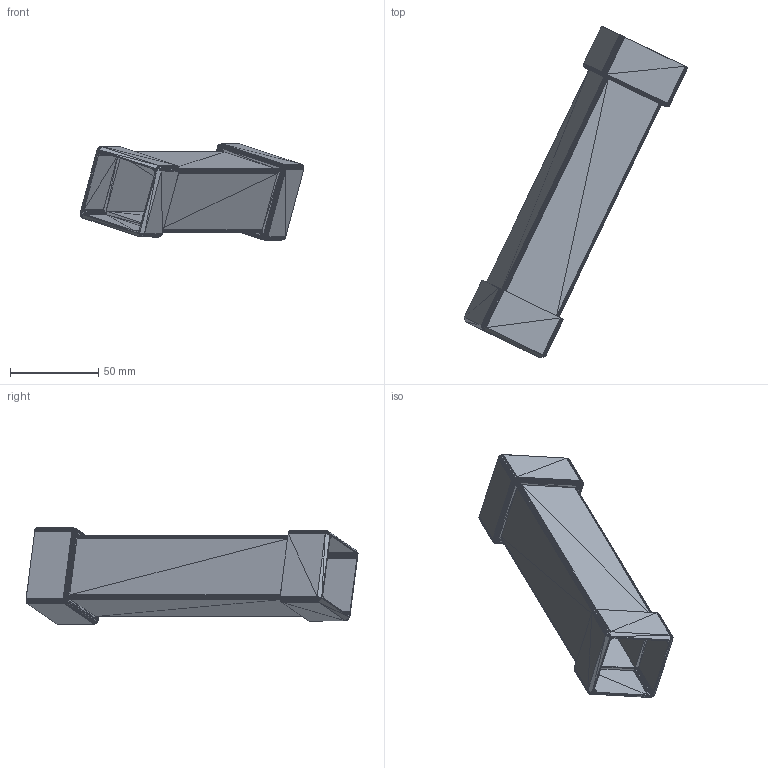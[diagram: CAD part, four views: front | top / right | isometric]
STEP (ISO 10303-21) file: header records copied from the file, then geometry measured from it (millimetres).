
FILE_DESCRIPTION(('Open CASCADE Model'),'2;1');
FILE_NAME('Open CASCADE Shape Model','2026-10-27T17:13:47',('Author'),( 'Open CASCADE'),'Open CASCADE STEP processor 7.9','Open CASCADE 7.9' ,'Unknown');
FILE_SCHEMA(('AUTOMOTIVE_DESIGN { 1 0 10303 214 1 1 1 1 }'));
Products named in the file (1): Open CASCADE STEP translator 7.9 1
Bounding box: 127.16 x 188.53 x 54.55 mm (x, y, z)
Volume: 59242.6 mm3; surface area: 56021.1 mm2
Topology: 1 solids, 1 shells, 1853 faces, 2789 edges, 936 vertices
Faces by surface type: plane 1853
Entity records: 72494 total; most frequent: DIRECTION 12075, CARTESIAN_POINT 11157, LINE 8367, VECTOR 8367, ORIENTED_EDGE 5578, PCURVE 5578, DEFINITIONAL_REPRESENTATION 5578, EDGE_CURVE 2789
